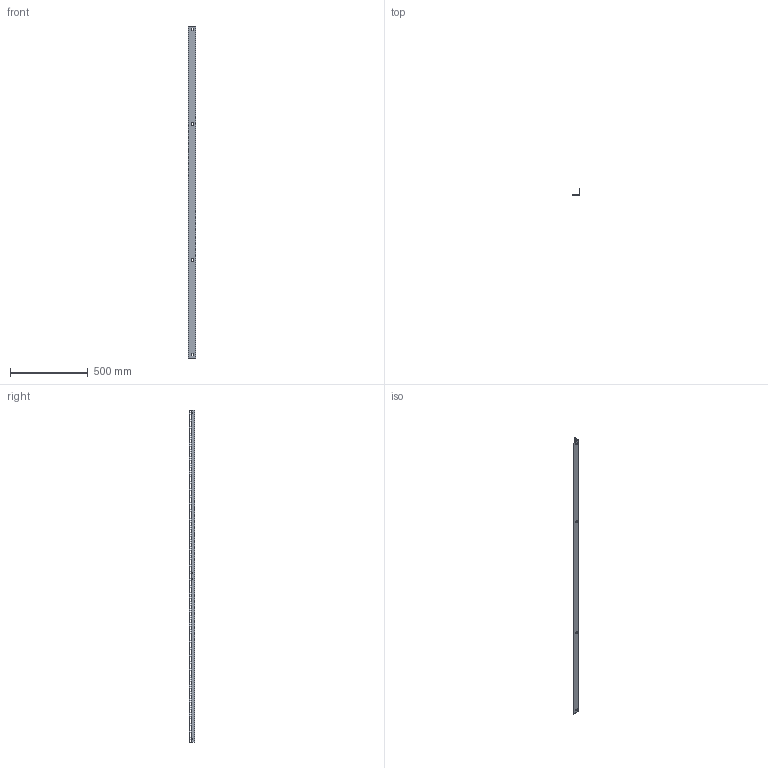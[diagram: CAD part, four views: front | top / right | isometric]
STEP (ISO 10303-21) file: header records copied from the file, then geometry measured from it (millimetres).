
FILE_DESCRIPTION(/* description */ ('Unknown'),/* implementation_level */ '2;1');
FILE_NAME(/* name */ 'H1SRR48U24BK',/* time_stamp */ '2021-03-18T08:05:28-04:00',/* author */ ('Unknown'),/* organization */ ('Unknown'),/* preprocessor_version */ 'ST-DEVELOPER v16.7',/* originating_system */ 'Solid Edge',/* authorisation */ 'Unknown');
FILE_SCHEMA (('AUTOMOTIVE_DESIGN {1 0 10303 214 3 1 1}'));
Length unit declared in the file: millimetre
Products named in the file (1): COM57244-23LW
Bounding box: 50.8 x 35.41 x 2134.36 mm (x, y, z)
Volume: 392627.8 mm3; surface area: 350403 mm2
Topology: 1 solids, 1 shells, 729 faces, 2140 edges, 1428 vertices
Faces by surface type: plane 684, cylinder 34, bspline 11
Full cylindrical faces by diameter (mm): 4.496 x4
Entity records: 24750 total; most frequent: CARTESIAN_POINT 4905, ORIENTED_EDGE 4264, DIRECTION 3542, EDGE_CURVE 2132, LINE 1968, VECTOR 1968, VERTEX_POINT 1424, EDGE_LOOP 1052
